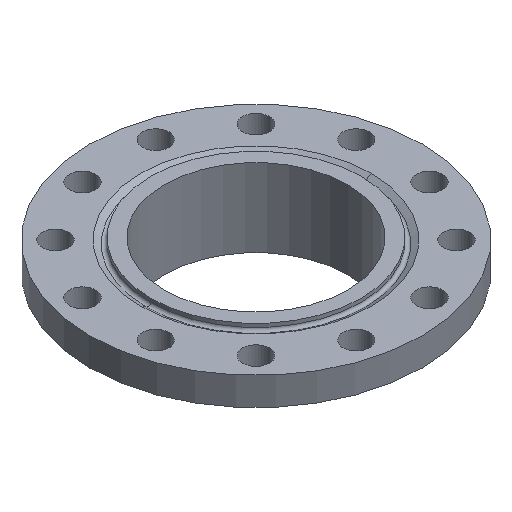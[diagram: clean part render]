
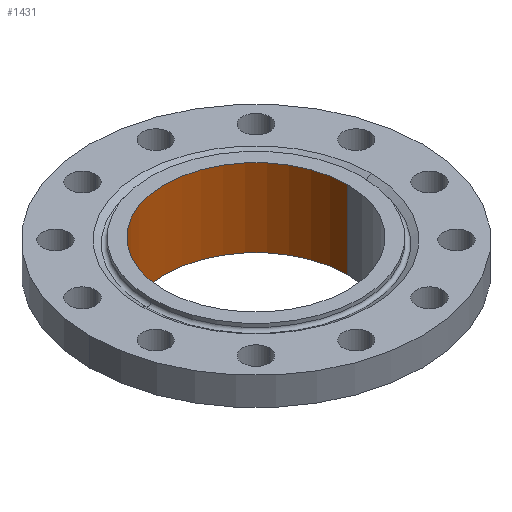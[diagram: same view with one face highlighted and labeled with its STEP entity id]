
A CAD part, isometric view. The second image highlights one B-rep face of the part: STEP entity #1431.
In plain terms, the highlighted cylindrical face has radius 103.25 mm (diameter 206.5 mm), a partial arc.
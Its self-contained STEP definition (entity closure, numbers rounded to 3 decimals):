
#62 = CARTESIAN_POINT ( 'NONE',  ( -103.25, 0., -88. ) ) ;
#261 = LINE ( 'NONE', #707, #476 ) ;
#377 = CARTESIAN_POINT ( 'NONE',  ( 103.25, 0., -98. ) ) ;
#405 = CARTESIAN_POINT ( 'NONE',  ( 0., 0., -98. ) ) ;
#419 = CIRCLE ( 'NONE', #637, 103.25 ) ;
#476 = VECTOR ( 'NONE', #1148, 1000. ) ;
#518 = DIRECTION ( 'NONE',  ( 0., 0., -1. ) ) ;
#583 = VERTEX_POINT ( 'NONE', #62 ) ;
#637 = AXIS2_PLACEMENT_3D ( 'NONE', #1398, #518, #905 ) ;
#638 = CARTESIAN_POINT ( 'NONE',  ( 0., 0., 0. ) ) ;
#707 = CARTESIAN_POINT ( 'NONE',  ( -103.25, 0., -98. ) ) ;
#758 = AXIS2_PLACEMENT_3D ( 'NONE', #638, #1042, #1438 ) ;
#766 = CIRCLE ( 'NONE', #758, 103.25 ) ;
#776 = ORIENTED_EDGE ( 'NONE', *, *, #1302, .F. ) ;
#778 = EDGE_CURVE ( 'NONE', #583, #964, #419, .T. ) ;
#779 = DIRECTION ( 'NONE',  ( 0., 0., -1. ) ) ;
#796 = ORIENTED_EDGE ( 'NONE', *, *, #1185, .F. ) ;
#798 = ORIENTED_EDGE ( 'NONE', *, *, #950, .T. ) ;
#799 = ORIENTED_EDGE ( 'NONE', *, *, #778, .T. ) ;
#800 = DIRECTION ( 'NONE',  ( 0., 0., -1. ) ) ;
#835 = EDGE_LOOP ( 'NONE', ( #776, #796, #798, #799 ) ) ;
#883 = CARTESIAN_POINT ( 'NONE',  ( -103.25, 0., 0. ) ) ;
#902 = AXIS2_PLACEMENT_3D ( 'NONE', #405, #800, #1216 ) ;
#905 = DIRECTION ( 'NONE',  ( -1., 0., 0. ) ) ;
#906 = FACE_OUTER_BOUND ( 'NONE', #835, .T. ) ;
#950 = EDGE_CURVE ( 'NONE', #1106, #583, #261, .T. ) ;
#964 = VERTEX_POINT ( 'NONE', #1429 ) ;
#986 = CARTESIAN_POINT ( 'NONE',  ( 103.25, 0., 0. ) ) ;
#1042 = DIRECTION ( 'NONE',  ( 0., 0., -1. ) ) ;
#1050 = VERTEX_POINT ( 'NONE', #986 ) ;
#1106 = VERTEX_POINT ( 'NONE', #883 ) ;
#1148 = DIRECTION ( 'NONE',  ( 0., 0., -1. ) ) ;
#1172 = VECTOR ( 'NONE', #779, 1000. ) ;
#1185 = EDGE_CURVE ( 'NONE', #1106, #1050, #766, .T. ) ;
#1216 = DIRECTION ( 'NONE',  ( -1., 0., 0. ) ) ;
#1283 = LINE ( 'NONE', #377, #1172 ) ;
#1302 = EDGE_CURVE ( 'NONE', #1050, #964, #1283, .T. ) ;
#1316 = CYLINDRICAL_SURFACE ( 'NONE', #902, 103.25 ) ;
#1398 = CARTESIAN_POINT ( 'NONE',  ( 0., 0., -88. ) ) ;
#1429 = CARTESIAN_POINT ( 'NONE',  ( 103.25, 0., -88. ) ) ;
#1431 = ADVANCED_FACE ( 'NONE', ( #906 ), #1316, .F. ) ;
#1438 = DIRECTION ( 'NONE',  ( -1., 0., 0. ) ) ;
